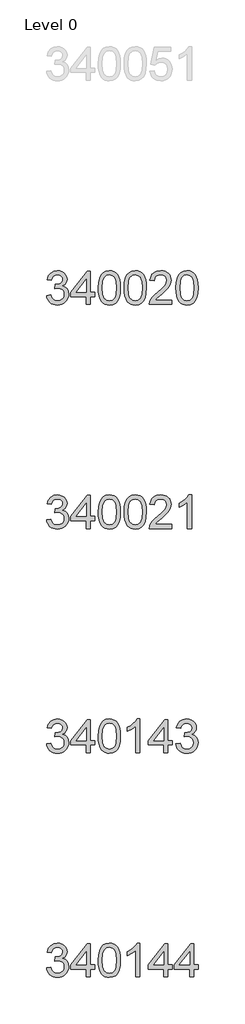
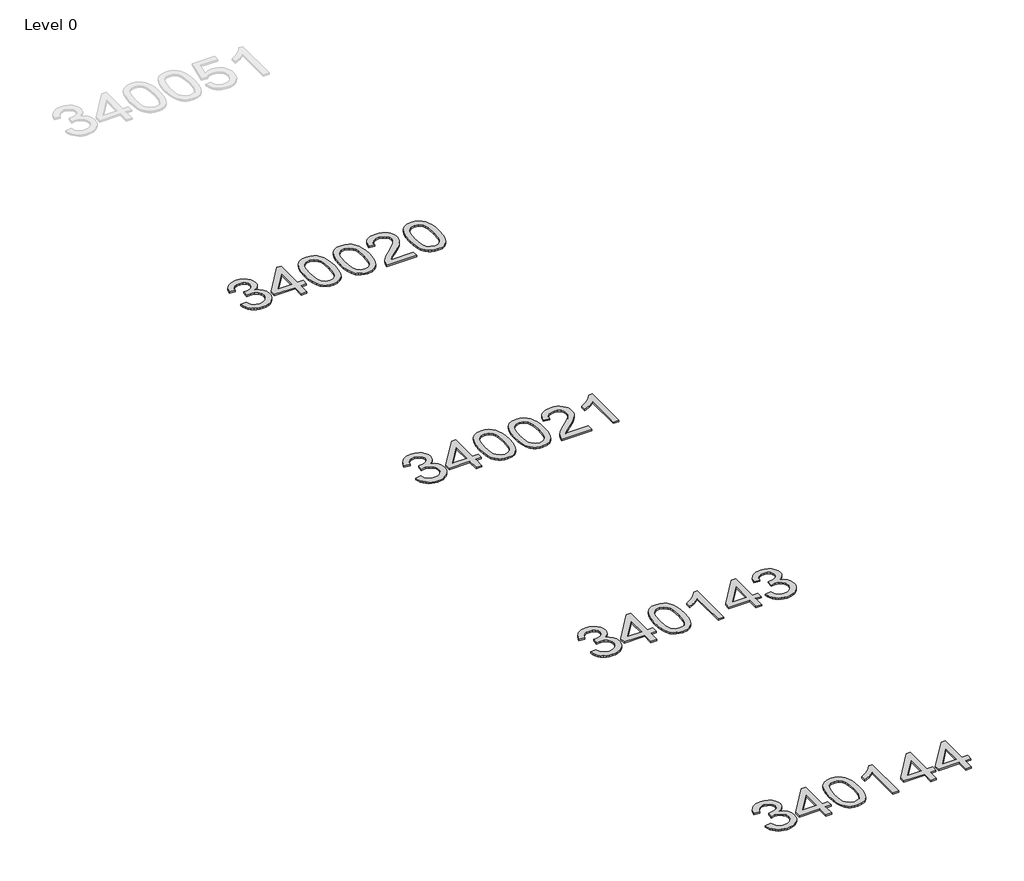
# One storey, part 5 of 10: 4 proxies.
"""IFC4 building model written with IfcOpenShell, lengths in millimetres."""

from ifc_helpers import new_model, si_unit, origin, origin_with_axes, place, context, project, spatial, polyline, outline, extrude, element, save

model = new_model("IFC4")

# Units and contexts
model_context = context("Model", 3, world=origin())
ifc_project = project(units=[si_unit("LENGTHUNIT", "METRE", prefix="MILLI")], contexts=[model_context])

# Site, building, storey
site = spatial("IfcSite", under=ifc_project)
building = spatial("IfcBuilding", under=site)
storey = spatial("IfcBuildingStorey", under=building, Name="Level 0", Elevation=0.0)

# Proxies
placement = place(None, origin())
element("IfcBuildingElementProxy", 1, Name="300mm Arial", ObjectType="300mm Arial", at=placement, inside=storey, context=model_context, shape_type="SweptSolid", body=[
    extrude(outline(polyline([(-6261.3392155, 6357.1231623), (-6223.6680991, 6361.8320519), (-6215.2344044, 6338.1588455), (-6202.8827664, 6322.1743728), (-6186.0061799, 6313.0692934), (-6163.9976395, 6310.034267), (-6138.1723235, 6314.2097276), (-6118.2331193, 6326.7361095), (-6105.4860082, 6345.4245149), (-6101.2369711, 6368.0860458), (-6105.44922, 6389.5979455), (-6118.0859665, 6407.0447491), (-6137.2158303, 6418.6054408), (-6160.9074308, 6422.4590047), (-6187.321358, 6418.3387263), (-6183.1275033, 6456.0098427), (-6177.0942386, 6455.5683843), (-6154.5246782, 6458.2723169), (-6134.3463507, 6466.3841149), (-6120.1093175, 6480.1061133), (-6115.3636398, 6499.6406473), (-6118.8033364, 6515.9102285), (-6129.1224264, 6529.1079951), (-6144.8677758, 6537.8543895), (-6164.5862507, 6540.7698543), (-6184.3415139, 6537.8267984), (-6200.4915334, 6528.9976305), (-6212.2821514, 6514.2823507), (-6218.9592096, 6493.680959), (-6256.6303259, 6498.3898485), (-6245.5386838, 6532.216598), (-6225.8018147, 6557.4716969), (-6198.7992763, 6573.1986522), (-6165.9106259, 6578.4409706), (-6142.2282225, 6575.8565996), (-6120.4771995, 6568.1034866), (-6102.138282, 6555.8714102), (-6088.6921951, 6539.8501494), (-6080.4424414, 6521.3916702), (-6077.6925235, 6501.8479393), (-6080.3044856, 6483.6377805), (-6088.1403721, 6467.1198789), (-6101.0898184, 6453.0483926), (-6119.0424597, 6442.1774796), (-6095.4612238, 6432.649336), (-6077.9868291, 6416.42574), (-6067.1710984, 6394.3896085), (-6063.5658548, 6367.4238582), (-6065.3684766, 6348.3123886), (-6070.7763419, 6330.7092351), (-6079.7894508, 6314.6143978), (-6092.4078033, 6300.0278767), (-6107.7806721, 6287.9245591), (-6125.0573303, 6279.2793322), (-6144.2377779, 6274.092196), (-6165.3220147, 6272.3631507), (-6184.3783021, 6273.8392772), (-6201.7423322, 6278.2676567), (-6217.4141052, 6285.6482892), (-6231.393621, 6295.9811747), (-6243.1152611, 6308.659308), (-6252.0134069, 6323.0756837), (-6258.0880583, 6339.2303018), (-6261.3392155, 6357.1231623)])), origin_with_axes(), (0.0, 0.0, 1.0), 10.0),
    extrude(outline(polyline([(-5908.1725001, 6277.0720402), (-5908.1725001, 6347.7053833), (-6044.7302967, 6347.7053833), (-6044.7302967, 6385.3764996), (-5898.754721, 6573.7320811), (-5870.5013838, 6573.7320811), (-5870.5013838, 6385.3764996), (-5832.8302675, 6385.3764996), (-5832.8302675, 6347.7053833), (-5870.5013838, 6347.7053833), (-5870.5013838, 6277.0720402), (-5908.1725001, 6277.0720402)]), holes=[polyline([(-5908.1725001, 6385.3764996), (-5908.1725001, 6501.7743629), (-5998.3771653, 6385.3764996), (-5908.1725001, 6385.3764996)])]), origin_with_axes(), (0.0, 0.0, 1.0), 10.0),
    extrude(outline(polyline([(-5799.8680407, 6425.3284843), (-5797.0997287, 6473.5670109), (-5788.7947926, 6512.0382705), (-5775.036006, 6541.3308744), (-5755.9061423, 6562.0334337), (-5731.2672456, 6574.3390864), (-5700.9813604, 6578.4409706), (-5677.7680065, 6576.0129495), (-5656.9826738, 6568.728886), (-5639.6002495, 6556.8738887), (-5626.595621, 6540.7330661), (-5616.7731717, 6520.4443741), (-5608.9372852, 6496.1457683), (-5603.8053314, 6465.289666), (-5602.0946801, 6425.3284843), (-5604.835401, 6377.3658691), (-5613.0575635, 6338.98658), (-5626.7335767, 6309.666385), (-5645.8358493, 6288.8810522), (-5670.5299282, 6276.4926261), (-5700.9813604, 6272.3631507), (-5721.7299049, 6274.1565754), (-5740.1240047, 6279.5368496), (-5756.1636597, 6288.5039732), (-5769.8488699, 6301.0579463), (-5782.9822571, 6323.7516669), (-5792.363248, 6352.0279967), (-5797.9918425, 6385.8869358), (-5799.8680407, 6425.3284843)]), holes=[polyline([(-5762.1969244, 6425.4020607), (-5757.7823405, 6366.1454683), (-5752.2641105, 6345.8774696), (-5744.5385886, 6331.8496693), (-5724.8201137, 6315.4881175), (-5700.9813604, 6310.034267), (-5677.1426071, 6315.5065116), (-5657.4241322, 6331.9232457), (-5649.6986103, 6345.9740386), (-5644.1803803, 6366.2374388), (-5639.7657964, 6425.4020607), (-5644.0332275, 6483.3250808), (-5649.3675165, 6503.5264009), (-5656.835521, 6517.8875942), (-5676.5172077, 6535.0492893), (-5701.4228188, 6540.7698543), (-5725.0040547, 6535.729871), (-5743.9499774, 6520.609921), (-5751.9330167, 6504.9749362), (-5757.6351877, 6483.8952979), (-5762.1969244, 6425.4020607)])]), origin_with_axes(), (0.0, 0.0, 1.0), 10.0),
    extrude(outline(polyline([(-5569.1324533, 6425.3284843), (-5566.3641413, 6473.5670109), (-5558.0592053, 6512.0382705), (-5544.3004187, 6541.3308744), (-5525.1705549, 6562.0334337), (-5500.5316583, 6574.3390864), (-5470.245773, 6578.4409706), (-5447.0324191, 6576.0129495), (-5426.2470864, 6568.728886), (-5408.8646621, 6556.8738887), (-5395.8600336, 6540.7330661), (-5386.0375843, 6520.4443741), (-5378.2016978, 6496.1457683), (-5373.069744, 6465.289666), (-5371.3590927, 6425.3284843), (-5374.0998136, 6377.3658691), (-5382.3219762, 6338.98658), (-5395.9979893, 6309.666385), (-5415.1002619, 6288.8810522), (-5439.7943409, 6276.4926261), (-5470.245773, 6272.3631507), (-5490.9943175, 6274.1565754), (-5509.3884173, 6279.5368496), (-5525.4280723, 6288.5039732), (-5539.1132825, 6301.0579463), (-5552.2466697, 6323.7516669), (-5561.6276606, 6352.0279967), (-5567.2562552, 6385.8869358), (-5569.1324533, 6425.3284843)]), holes=[polyline([(-5531.461337, 6425.4020607), (-5527.0467531, 6366.1454683), (-5521.5285231, 6345.8774696), (-5513.8030013, 6331.8496693), (-5494.0845263, 6315.4881175), (-5470.245773, 6310.034267), (-5446.4070197, 6315.5065116), (-5426.6885448, 6331.9232457), (-5418.9630229, 6345.9740386), (-5413.444793, 6366.2374388), (-5409.030209, 6425.4020607), (-5413.2976402, 6483.3250808), (-5418.6319291, 6503.5264009), (-5426.0999336, 6517.8875942), (-5445.7816203, 6535.0492893), (-5470.6872314, 6540.7698543), (-5494.2684673, 6535.729871), (-5513.2143901, 6520.609921), (-5521.1974294, 6504.9749362), (-5526.8996003, 6483.8952979), (-5531.461337, 6425.4020607)])]), origin_with_axes(), (0.0, 0.0, 1.0), 10.0),
    extrude(outline(polyline([(-5145.3323949, 6314.7431565), (-5145.3323949, 6277.0720402), (-5343.1057555, 6277.0720402), (-5339.0590535, 6303.0445091), (-5329.7700332, 6323.3423981), (-5316.1767934, 6343.0332819), (-5296.5135008, 6363.6438707), (-5269.0143217, 6386.7008748), (-5228.3633612, 6422.8084926), (-5203.9727849, 6449.4615431), (-5191.7774968, 6471.0930045), (-5187.7124007, 6492.1358546), (-5191.5475705, 6510.9990039), (-5203.0530799, 6526.6799739), (-5220.7390068, 6537.2473842), (-5243.1154292, 6540.7698543), (-5266.6138916, 6537.3301577), (-5284.8700357, 6527.0110677), (-5296.6514565, 6510.6219248), (-5300.7257496, 6488.9720694), (-5338.396866, 6493.680959), (-5329.2641954, 6530.1196706), (-5320.7178368, 6544.6556079), (-5309.5181293, 6556.7359329), (-5295.9225903, 6566.2318869), (-5280.1887373, 6573.0147112), (-5242.3060888, 6578.4409706), (-5222.1162651, 6576.9326545), (-5204.1475289, 6572.4077059), (-5188.3998802, 6564.866125), (-5174.8733191, 6554.3079118), (-5164.0093039, 6541.5148154), (-5156.2492931, 6527.2685851), (-5151.5932866, 6511.569221), (-5150.0412844, 6494.4167229), (-5151.7151475, 6476.3997022), (-5156.7367367, 6458.6953812), (-5165.6486781, 6440.6875576), (-5178.9935974, 6421.7600289), (-5200.2663738, 6399.1628773), (-5232.9618861, 6370.146185), (-5276.2983852, 6333.9098085), (-5293.2945333, 6314.7431565), (-5145.3323949, 6314.7431565)])), origin_with_axes(), (0.0, 0.0, 1.0), 10.0),
    extrude(outline(polyline([(-5107.6612786, 6425.3284843), (-5104.8929666, 6473.5670109), (-5096.5880305, 6512.0382705), (-5082.8292439, 6541.3308744), (-5063.6993802, 6562.0334337), (-5039.0604835, 6574.3390864), (-5008.7745983, 6578.4409706), (-4985.5612444, 6576.0129495), (-4964.7759116, 6568.728886), (-4947.3934874, 6556.8738887), (-4934.3888588, 6540.7330661), (-4924.5664096, 6520.4443741), (-4916.7305231, 6496.1457683), (-4911.5985692, 6465.289666), (-4909.887918, 6425.3284843), (-4912.6286388, 6377.3658691), (-4920.8508014, 6338.98658), (-4934.5268146, 6309.666385), (-4953.6290872, 6288.8810522), (-4978.3231661, 6276.4926261), (-5008.7745983, 6272.3631507), (-5029.5231428, 6274.1565754), (-5047.9172426, 6279.5368496), (-5063.9568975, 6288.5039732), (-5077.6421078, 6301.0579463), (-5090.775495, 6323.7516669), (-5100.1564859, 6352.0279967), (-5105.7850804, 6385.8869358), (-5107.6612786, 6425.3284843)]), holes=[polyline([(-5069.9901623, 6425.4020607), (-5065.5755783, 6366.1454683), (-5060.0573484, 6345.8774696), (-5052.3318265, 6331.8496693), (-5032.6133516, 6315.4881175), (-5008.7745983, 6310.034267), (-4984.935845, 6315.5065116), (-4965.21737, 6331.9232457), (-4957.4918481, 6345.9740386), (-4951.9736182, 6366.2374388), (-4947.5590343, 6425.4020607), (-4951.8264654, 6483.3250808), (-4957.1607543, 6503.5264009), (-4964.6287589, 6517.8875942), (-4984.3104456, 6535.0492893), (-5009.2160567, 6540.7698543), (-5032.7972926, 6535.729871), (-5051.7432153, 6520.609921), (-5059.7262546, 6504.9749362), (-5065.4284255, 6483.8952979), (-5069.9901623, 6425.4020607)])]), origin_with_axes(), (0.0, 0.0, 1.0), 10.0),
])
element("IfcBuildingElementProxy", 2, Name="300mm Arial", ObjectType="300mm Arial", at=placement, inside=storey, context=model_context, shape_type="SweptSolid", body=[
    extrude(outline(polyline([(-6261.3392155, 2357.1231623), (-6223.6680991, 2361.8320519), (-6215.2344044, 2338.1588455), (-6202.8827664, 2322.1743728), (-6186.0061799, 2313.0692934), (-6163.9976395, 2310.034267), (-6138.1723235, 2314.2097276), (-6118.2331193, 2326.7361095), (-6105.4860082, 2345.4245149), (-6101.2369711, 2368.0860458), (-6105.44922, 2389.5979455), (-6118.0859665, 2407.0447491), (-6137.2158303, 2418.6054408), (-6160.9074308, 2422.4590047), (-6187.321358, 2418.3387263), (-6183.1275033, 2456.0098427), (-6177.0942386, 2455.5683843), (-6154.5246782, 2458.2723169), (-6134.3463507, 2466.3841149), (-6120.1093175, 2480.1061133), (-6115.3636398, 2499.6406473), (-6118.8033364, 2515.9102285), (-6129.1224264, 2529.1079951), (-6144.8677758, 2537.8543895), (-6164.5862507, 2540.7698543), (-6184.3415139, 2537.8267984), (-6200.4915334, 2528.9976305), (-6212.2821514, 2514.2823507), (-6218.9592096, 2493.680959), (-6256.6303259, 2498.3898485), (-6245.5386838, 2532.216598), (-6225.8018147, 2557.4716969), (-6198.7992763, 2573.1986522), (-6165.9106259, 2578.4409706), (-6142.2282225, 2575.8565996), (-6120.4771995, 2568.1034866), (-6102.138282, 2555.8714102), (-6088.6921951, 2539.8501494), (-6080.4424414, 2521.3916702), (-6077.6925235, 2501.8479393), (-6080.3044856, 2483.6377805), (-6088.1403721, 2467.1198789), (-6101.0898184, 2453.0483926), (-6119.0424597, 2442.1774796), (-6095.4612238, 2432.649336), (-6077.9868291, 2416.42574), (-6067.1710984, 2394.3896085), (-6063.5658548, 2367.4238582), (-6065.3684766, 2348.3123886), (-6070.7763419, 2330.7092351), (-6079.7894508, 2314.6143978), (-6092.4078033, 2300.0278767), (-6107.7806721, 2287.9245591), (-6125.0573303, 2279.2793322), (-6144.2377779, 2274.092196), (-6165.3220147, 2272.3631507), (-6184.3783021, 2273.8392772), (-6201.7423322, 2278.2676567), (-6217.4141052, 2285.6482892), (-6231.393621, 2295.9811747), (-6243.1152611, 2308.659308), (-6252.0134069, 2323.0756837), (-6258.0880583, 2339.2303018), (-6261.3392155, 2357.1231623)])), origin_with_axes(), (0.0, 0.0, 1.0), 10.0),
    extrude(outline(polyline([(-5908.1725001, 2277.0720402), (-5908.1725001, 2347.7053833), (-6044.7302967, 2347.7053833), (-6044.7302967, 2385.3764996), (-5898.754721, 2573.7320811), (-5870.5013838, 2573.7320811), (-5870.5013838, 2385.3764996), (-5832.8302675, 2385.3764996), (-5832.8302675, 2347.7053833), (-5870.5013838, 2347.7053833), (-5870.5013838, 2277.0720402), (-5908.1725001, 2277.0720402)]), holes=[polyline([(-5908.1725001, 2385.3764996), (-5908.1725001, 2501.7743629), (-5998.3771653, 2385.3764996), (-5908.1725001, 2385.3764996)])]), origin_with_axes(), (0.0, 0.0, 1.0), 10.0),
    extrude(outline(polyline([(-5799.8680407, 2425.3284843), (-5797.0997287, 2473.5670109), (-5788.7947926, 2512.0382705), (-5775.036006, 2541.3308744), (-5755.9061423, 2562.0334337), (-5731.2672456, 2574.3390864), (-5700.9813604, 2578.4409706), (-5677.7680065, 2576.0129495), (-5656.9826738, 2568.728886), (-5639.6002495, 2556.8738887), (-5626.595621, 2540.7330661), (-5616.7731717, 2520.4443741), (-5608.9372852, 2496.1457683), (-5603.8053314, 2465.289666), (-5602.0946801, 2425.3284843), (-5604.835401, 2377.3658691), (-5613.0575635, 2338.98658), (-5626.7335767, 2309.666385), (-5645.8358493, 2288.8810522), (-5670.5299282, 2276.4926261), (-5700.9813604, 2272.3631507), (-5721.7299049, 2274.1565754), (-5740.1240047, 2279.5368496), (-5756.1636597, 2288.5039732), (-5769.8488699, 2301.0579463), (-5782.9822571, 2323.7516669), (-5792.363248, 2352.0279967), (-5797.9918425, 2385.8869358), (-5799.8680407, 2425.3284843)]), holes=[polyline([(-5762.1969244, 2425.4020607), (-5757.7823405, 2366.1454683), (-5752.2641105, 2345.8774696), (-5744.5385886, 2331.8496693), (-5724.8201137, 2315.4881175), (-5700.9813604, 2310.034267), (-5677.1426071, 2315.5065116), (-5657.4241322, 2331.9232457), (-5649.6986103, 2345.9740386), (-5644.1803803, 2366.2374388), (-5639.7657964, 2425.4020607), (-5644.0332275, 2483.3250808), (-5649.3675165, 2503.5264009), (-5656.835521, 2517.8875942), (-5676.5172077, 2535.0492893), (-5701.4228188, 2540.7698543), (-5725.0040547, 2535.729871), (-5743.9499774, 2520.609921), (-5751.9330167, 2504.9749362), (-5757.6351877, 2483.8952979), (-5762.1969244, 2425.4020607)])]), origin_with_axes(), (0.0, 0.0, 1.0), 10.0),
    extrude(outline(polyline([(-5427.8657672, 2277.0720402), (-5465.5368835, 2277.0720402), (-5465.5368835, 2511.9279059), (-5501.221437, 2486.5072601), (-5540.8791161, 2467.4877609), (-5540.8791161, 2503.098738), (-5511.2922066, 2519.1935753), (-5485.6600286, 2538.3418332), (-5465.45411, 2558.7041016), (-5452.1459789, 2578.4409706), (-5427.8657672, 2578.4409706), (-5427.8657672, 2277.0720402)])), origin_with_axes(), (0.0, 0.0, 1.0), 10.0),
    extrude(outline(polyline([(-5215.965738, 2277.0720402), (-5215.965738, 2347.7053833), (-5352.5235346, 2347.7053833), (-5352.5235346, 2385.3764996), (-5206.5479589, 2573.7320811), (-5178.2946216, 2573.7320811), (-5178.2946216, 2385.3764996), (-5140.6235053, 2385.3764996), (-5140.6235053, 2347.7053833), (-5178.2946216, 2347.7053833), (-5178.2946216, 2277.0720402), (-5215.965738, 2277.0720402)]), holes=[polyline([(-5215.965738, 2385.3764996), (-5215.965738, 2501.7743629), (-5306.1704032, 2385.3764996), (-5215.965738, 2385.3764996)])]), origin_with_axes(), (0.0, 0.0, 1.0), 10.0),
    extrude(outline(polyline([(-5107.6612786, 2357.1231623), (-5069.9901623, 2361.8320519), (-5061.5564675, 2338.1588455), (-5049.2048295, 2322.1743728), (-5032.328243, 2313.0692934), (-5010.3197027, 2310.034267), (-4984.4943866, 2314.2097276), (-4964.5551825, 2326.7361095), (-4951.8080713, 2345.4245149), (-4947.5590343, 2368.0860458), (-4951.7712831, 2389.5979455), (-4964.4080297, 2407.0447491), (-4983.5378934, 2418.6054408), (-5007.2294939, 2422.4590047), (-5033.6434211, 2418.3387263), (-5029.4495664, 2456.0098427), (-5023.4163017, 2455.5683843), (-5000.8467413, 2458.2723169), (-4980.6684138, 2466.3841149), (-4966.4313806, 2480.1061133), (-4961.6857029, 2499.6406473), (-4965.1253995, 2515.9102285), (-4975.4444895, 2529.1079951), (-4991.1898389, 2537.8543895), (-5010.9083138, 2540.7698543), (-5030.663577, 2537.8267984), (-5046.8135966, 2528.9976305), (-5058.6042145, 2514.2823507), (-5065.2812727, 2493.680959), (-5102.952389, 2498.3898485), (-5091.8607469, 2532.216598), (-5072.1238778, 2557.4716969), (-5045.1213394, 2573.1986522), (-5012.232689, 2578.4409706), (-4988.5502856, 2575.8565996), (-4966.7992626, 2568.1034866), (-4948.4603452, 2555.8714102), (-4935.0142582, 2539.8501494), (-4926.7645045, 2521.3916702), (-4924.0145866, 2501.8479393), (-4926.6265487, 2483.6377805), (-4934.4624352, 2467.1198789), (-4947.4118815, 2453.0483926), (-4965.3645228, 2442.1774796), (-4941.783287, 2432.649336), (-4924.3088922, 2416.42574), (-4913.4931615, 2394.3896085), (-4909.887918, 2367.4238582), (-4911.6905397, 2348.3123886), (-4917.0984051, 2330.7092351), (-4926.111514, 2314.6143978), (-4938.7298664, 2300.0278767), (-4954.1027353, 2287.9245591), (-4971.3793935, 2279.2793322), (-4990.559841, 2274.092196), (-5011.6440778, 2272.3631507), (-5030.7003652, 2273.8392772), (-5048.0643954, 2278.2676567), (-5063.7361684, 2285.6482892), (-5077.7156842, 2295.9811747), (-5089.4373242, 2308.659308), (-5098.33547, 2323.0756837), (-5104.4101214, 2339.2303018), (-5107.6612786, 2357.1231623)])), origin_with_axes(), (0.0, 0.0, 1.0), 10.0),
])
element("IfcBuildingElementProxy", 3, Name="300mm Arial", ObjectType="300mm Arial", at=placement, inside=storey, context=model_context, shape_type="SweptSolid", body=[
    extrude(outline(polyline([(-6261.3392155, 4357.1231623), (-6223.6680991, 4361.8320519), (-6215.2344044, 4338.1588455), (-6202.8827664, 4322.1743728), (-6186.0061799, 4313.0692934), (-6163.9976395, 4310.034267), (-6138.1723235, 4314.2097276), (-6118.2331193, 4326.7361095), (-6105.4860082, 4345.4245149), (-6101.2369711, 4368.0860458), (-6105.44922, 4389.5979455), (-6118.0859665, 4407.0447491), (-6137.2158303, 4418.6054408), (-6160.9074308, 4422.4590047), (-6187.321358, 4418.3387263), (-6183.1275033, 4456.0098427), (-6177.0942386, 4455.5683843), (-6154.5246782, 4458.2723169), (-6134.3463507, 4466.3841149), (-6120.1093175, 4480.1061133), (-6115.3636398, 4499.6406473), (-6118.8033364, 4515.9102285), (-6129.1224264, 4529.1079951), (-6144.8677758, 4537.8543895), (-6164.5862507, 4540.7698543), (-6184.3415139, 4537.8267984), (-6200.4915334, 4528.9976305), (-6212.2821514, 4514.2823507), (-6218.9592096, 4493.680959), (-6256.6303259, 4498.3898485), (-6245.5386838, 4532.216598), (-6225.8018147, 4557.4716969), (-6198.7992763, 4573.1986522), (-6165.9106259, 4578.4409706), (-6142.2282225, 4575.8565996), (-6120.4771995, 4568.1034866), (-6102.138282, 4555.8714102), (-6088.6921951, 4539.8501494), (-6080.4424414, 4521.3916702), (-6077.6925235, 4501.8479393), (-6080.3044856, 4483.6377805), (-6088.1403721, 4467.1198789), (-6101.0898184, 4453.0483926), (-6119.0424597, 4442.1774796), (-6095.4612238, 4432.649336), (-6077.9868291, 4416.42574), (-6067.1710984, 4394.3896085), (-6063.5658548, 4367.4238582), (-6065.3684766, 4348.3123886), (-6070.7763419, 4330.7092351), (-6079.7894508, 4314.6143978), (-6092.4078033, 4300.0278767), (-6107.7806721, 4287.9245591), (-6125.0573303, 4279.2793322), (-6144.2377779, 4274.092196), (-6165.3220147, 4272.3631507), (-6184.3783021, 4273.8392772), (-6201.7423322, 4278.2676567), (-6217.4141052, 4285.6482892), (-6231.393621, 4295.9811747), (-6243.1152611, 4308.659308), (-6252.0134069, 4323.0756837), (-6258.0880583, 4339.2303018), (-6261.3392155, 4357.1231623)])), origin_with_axes(), (0.0, 0.0, 1.0), 10.0),
    extrude(outline(polyline([(-5908.1725001, 4277.0720402), (-5908.1725001, 4347.7053833), (-6044.7302967, 4347.7053833), (-6044.7302967, 4385.3764996), (-5898.754721, 4573.7320811), (-5870.5013838, 4573.7320811), (-5870.5013838, 4385.3764996), (-5832.8302675, 4385.3764996), (-5832.8302675, 4347.7053833), (-5870.5013838, 4347.7053833), (-5870.5013838, 4277.0720402), (-5908.1725001, 4277.0720402)]), holes=[polyline([(-5908.1725001, 4385.3764996), (-5908.1725001, 4501.7743629), (-5998.3771653, 4385.3764996), (-5908.1725001, 4385.3764996)])]), origin_with_axes(), (0.0, 0.0, 1.0), 10.0),
    extrude(outline(polyline([(-5799.8680407, 4425.3284843), (-5797.0997287, 4473.5670109), (-5788.7947926, 4512.0382705), (-5775.036006, 4541.3308744), (-5755.9061423, 4562.0334337), (-5731.2672456, 4574.3390864), (-5700.9813604, 4578.4409706), (-5677.7680065, 4576.0129495), (-5656.9826738, 4568.728886), (-5639.6002495, 4556.8738887), (-5626.595621, 4540.7330661), (-5616.7731717, 4520.4443741), (-5608.9372852, 4496.1457683), (-5603.8053314, 4465.289666), (-5602.0946801, 4425.3284843), (-5604.835401, 4377.3658691), (-5613.0575635, 4338.98658), (-5626.7335767, 4309.666385), (-5645.8358493, 4288.8810522), (-5670.5299282, 4276.4926261), (-5700.9813604, 4272.3631507), (-5721.7299049, 4274.1565754), (-5740.1240047, 4279.5368496), (-5756.1636597, 4288.5039732), (-5769.8488699, 4301.0579463), (-5782.9822571, 4323.7516669), (-5792.363248, 4352.0279967), (-5797.9918425, 4385.8869358), (-5799.8680407, 4425.3284843)]), holes=[polyline([(-5762.1969244, 4425.4020607), (-5757.7823405, 4366.1454683), (-5752.2641105, 4345.8774696), (-5744.5385886, 4331.8496693), (-5724.8201137, 4315.4881175), (-5700.9813604, 4310.034267), (-5677.1426071, 4315.5065116), (-5657.4241322, 4331.9232457), (-5649.6986103, 4345.9740386), (-5644.1803803, 4366.2374388), (-5639.7657964, 4425.4020607), (-5644.0332275, 4483.3250808), (-5649.3675165, 4503.5264009), (-5656.835521, 4517.8875942), (-5676.5172077, 4535.0492893), (-5701.4228188, 4540.7698543), (-5725.0040547, 4535.729871), (-5743.9499774, 4520.609921), (-5751.9330167, 4504.9749362), (-5757.6351877, 4483.8952979), (-5762.1969244, 4425.4020607)])]), origin_with_axes(), (0.0, 0.0, 1.0), 10.0),
    extrude(outline(polyline([(-5569.1324533, 4425.3284843), (-5566.3641413, 4473.5670109), (-5558.0592053, 4512.0382705), (-5544.3004187, 4541.3308744), (-5525.1705549, 4562.0334337), (-5500.5316583, 4574.3390864), (-5470.245773, 4578.4409706), (-5447.0324191, 4576.0129495), (-5426.2470864, 4568.728886), (-5408.8646621, 4556.8738887), (-5395.8600336, 4540.7330661), (-5386.0375843, 4520.4443741), (-5378.2016978, 4496.1457683), (-5373.069744, 4465.289666), (-5371.3590927, 4425.3284843), (-5374.0998136, 4377.3658691), (-5382.3219762, 4338.98658), (-5395.9979893, 4309.666385), (-5415.1002619, 4288.8810522), (-5439.7943409, 4276.4926261), (-5470.245773, 4272.3631507), (-5490.9943175, 4274.1565754), (-5509.3884173, 4279.5368496), (-5525.4280723, 4288.5039732), (-5539.1132825, 4301.0579463), (-5552.2466697, 4323.7516669), (-5561.6276606, 4352.0279967), (-5567.2562552, 4385.8869358), (-5569.1324533, 4425.3284843)]), holes=[polyline([(-5531.461337, 4425.4020607), (-5527.0467531, 4366.1454683), (-5521.5285231, 4345.8774696), (-5513.8030013, 4331.8496693), (-5494.0845263, 4315.4881175), (-5470.245773, 4310.034267), (-5446.4070197, 4315.5065116), (-5426.6885448, 4331.9232457), (-5418.9630229, 4345.9740386), (-5413.444793, 4366.2374388), (-5409.030209, 4425.4020607), (-5413.2976402, 4483.3250808), (-5418.6319291, 4503.5264009), (-5426.0999336, 4517.8875942), (-5445.7816203, 4535.0492893), (-5470.6872314, 4540.7698543), (-5494.2684673, 4535.729871), (-5513.2143901, 4520.609921), (-5521.1974294, 4504.9749362), (-5526.8996003, 4483.8952979), (-5531.461337, 4425.4020607)])]), origin_with_axes(), (0.0, 0.0, 1.0), 10.0),
    extrude(outline(polyline([(-5145.3323949, 4314.7431565), (-5145.3323949, 4277.0720402), (-5343.1057555, 4277.0720402), (-5339.0590535, 4303.0445091), (-5329.7700332, 4323.3423981), (-5316.1767934, 4343.0332819), (-5296.5135008, 4363.6438707), (-5269.0143217, 4386.7008748), (-5228.3633612, 4422.8084926), (-5203.9727849, 4449.4615431), (-5191.7774968, 4471.0930045), (-5187.7124007, 4492.1358546), (-5191.5475705, 4510.9990039), (-5203.0530799, 4526.6799739), (-5220.7390068, 4537.2473842), (-5243.1154292, 4540.7698543), (-5266.6138916, 4537.3301577), (-5284.8700357, 4527.0110677), (-5296.6514565, 4510.6219248), (-5300.7257496, 4488.9720694), (-5338.396866, 4493.680959), (-5329.2641954, 4530.1196706), (-5320.7178368, 4544.6556079), (-5309.5181293, 4556.7359329), (-5295.9225903, 4566.2318869), (-5280.1887373, 4573.0147112), (-5242.3060888, 4578.4409706), (-5222.1162651, 4576.9326545), (-5204.1475289, 4572.4077059), (-5188.3998802, 4564.866125), (-5174.8733191, 4554.3079118), (-5164.0093039, 4541.5148154), (-5156.2492931, 4527.2685851), (-5151.5932866, 4511.569221), (-5150.0412844, 4494.4167229), (-5151.7151475, 4476.3997022), (-5156.7367367, 4458.6953812), (-5165.6486781, 4440.6875576), (-5178.9935974, 4421.7600289), (-5200.2663738, 4399.1628773), (-5232.9618861, 4370.146185), (-5276.2983852, 4333.9098085), (-5293.2945333, 4314.7431565), (-5145.3323949, 4314.7431565)])), origin_with_axes(), (0.0, 0.0, 1.0), 10.0),
    extrude(outline(polyline([(-4966.3945924, 4277.0720402), (-5004.0657087, 4277.0720402), (-5004.0657087, 4511.9279059), (-5039.7502623, 4486.5072601), (-5079.4079413, 4467.4877609), (-5079.4079413, 4503.098738), (-5049.8210319, 4519.1935753), (-5024.1888539, 4538.3418332), (-5003.9829353, 4558.7041016), (-4990.6748041, 4578.4409706), (-4966.3945924, 4578.4409706), (-4966.3945924, 4277.0720402)])), origin_with_axes(), (0.0, 0.0, 1.0), 10.0),
])
element("IfcBuildingElementProxy", 4, Name="300mm Arial", ObjectType="300mm Arial", at=placement, inside=storey, context=model_context, shape_type="SweptSolid", body=[
    extrude(outline(polyline([(-6261.3392155, 357.1231623), (-6223.6680991, 361.8320519), (-6215.2344044, 338.1588455), (-6202.8827664, 322.1743728), (-6186.0061799, 313.0692934), (-6163.9976395, 310.034267), (-6138.1723235, 314.2097276), (-6118.2331193, 326.7361095), (-6105.4860082, 345.4245149), (-6101.2369711, 368.0860458), (-6105.44922, 389.5979455), (-6118.0859665, 407.0447491), (-6137.2158303, 418.6054408), (-6160.9074308, 422.4590047), (-6187.321358, 418.3387263), (-6183.1275033, 456.0098427), (-6177.0942386, 455.5683843), (-6154.5246782, 458.2723169), (-6134.3463507, 466.3841149), (-6120.1093175, 480.1061133), (-6115.3636398, 499.6406473), (-6118.8033364, 515.9102285), (-6129.1224264, 529.1079951), (-6144.8677758, 537.8543895), (-6164.5862507, 540.7698543), (-6184.3415139, 537.8267984), (-6200.4915334, 528.9976305), (-6212.2821514, 514.2823507), (-6218.9592096, 493.680959), (-6256.6303259, 498.3898485), (-6245.5386838, 532.216598), (-6225.8018147, 557.4716969), (-6198.7992763, 573.1986522), (-6165.9106259, 578.4409706), (-6142.2282225, 575.8565996), (-6120.4771995, 568.1034866), (-6102.138282, 555.8714102), (-6088.6921951, 539.8501494), (-6080.4424414, 521.3916702), (-6077.6925235, 501.8479393), (-6080.3044856, 483.6377805), (-6088.1403721, 467.1198789), (-6101.0898184, 453.0483926), (-6119.0424597, 442.1774796), (-6095.4612238, 432.649336), (-6077.9868291, 416.42574), (-6067.1710984, 394.3896085), (-6063.5658548, 367.4238582), (-6065.3684766, 348.3123886), (-6070.7763419, 330.7092351), (-6079.7894508, 314.6143978), (-6092.4078033, 300.0278767), (-6107.7806721, 287.9245591), (-6125.0573303, 279.2793322), (-6144.2377779, 274.092196), (-6165.3220147, 272.3631507), (-6184.3783021, 273.8392772), (-6201.7423322, 278.2676567), (-6217.4141052, 285.6482892), (-6231.393621, 295.9811747), (-6243.1152611, 308.659308), (-6252.0134069, 323.0756837), (-6258.0880583, 339.2303018), (-6261.3392155, 357.1231623)])), origin_with_axes(), (0.0, 0.0, 1.0), 10.0),
    extrude(outline(polyline([(-5908.1725001, 277.0720402), (-5908.1725001, 347.7053833), (-6044.7302967, 347.7053833), (-6044.7302967, 385.3764996), (-5898.754721, 573.7320811), (-5870.5013838, 573.7320811), (-5870.5013838, 385.3764996), (-5832.8302675, 385.3764996), (-5832.8302675, 347.7053833), (-5870.5013838, 347.7053833), (-5870.5013838, 277.0720402), (-5908.1725001, 277.0720402)]), holes=[polyline([(-5908.1725001, 385.3764996), (-5908.1725001, 501.7743629), (-5998.3771653, 385.3764996), (-5908.1725001, 385.3764996)])]), origin_with_axes(), (0.0, 0.0, 1.0), 10.0),
    extrude(outline(polyline([(-5799.8680407, 425.3284843), (-5797.0997287, 473.5670109), (-5788.7947926, 512.0382705), (-5775.036006, 541.3308744), (-5755.9061423, 562.0334337), (-5731.2672456, 574.3390864), (-5700.9813604, 578.4409706), (-5677.7680065, 576.0129495), (-5656.9826738, 568.728886), (-5639.6002495, 556.8738887), (-5626.595621, 540.7330661), (-5616.7731717, 520.4443741), (-5608.9372852, 496.1457683), (-5603.8053314, 465.289666), (-5602.0946801, 425.3284843), (-5604.835401, 377.3658691), (-5613.0575635, 338.98658), (-5626.7335767, 309.666385), (-5645.8358493, 288.8810522), (-5670.5299282, 276.4926261), (-5700.9813604, 272.3631507), (-5721.7299049, 274.1565754), (-5740.1240047, 279.5368496), (-5756.1636597, 288.5039732), (-5769.8488699, 301.0579463), (-5782.9822571, 323.7516669), (-5792.363248, 352.0279967), (-5797.9918425, 385.8869358), (-5799.8680407, 425.3284843)]), holes=[polyline([(-5762.1969244, 425.4020607), (-5757.7823405, 366.1454683), (-5752.2641105, 345.8774696), (-5744.5385886, 331.8496693), (-5724.8201137, 315.4881175), (-5700.9813604, 310.034267), (-5677.1426071, 315.5065116), (-5657.4241322, 331.9232457), (-5649.6986103, 345.9740386), (-5644.1803803, 366.2374388), (-5639.7657964, 425.4020607), (-5644.0332275, 483.3250808), (-5649.3675165, 503.5264009), (-5656.835521, 517.8875942), (-5676.5172077, 535.0492893), (-5701.4228188, 540.7698543), (-5725.0040547, 535.729871), (-5743.9499774, 520.609921), (-5751.9330167, 504.9749362), (-5757.6351877, 483.8952979), (-5762.1969244, 425.4020607)])]), origin_with_axes(), (0.0, 0.0, 1.0), 10.0),
    extrude(outline(polyline([(-5427.8657672, 277.0720402), (-5465.5368835, 277.0720402), (-5465.5368835, 511.9279059), (-5501.221437, 486.5072601), (-5540.8791161, 467.4877609), (-5540.8791161, 503.098738), (-5511.2922066, 519.1935753), (-5485.6600286, 538.3418332), (-5465.45411, 558.7041016), (-5452.1459789, 578.4409706), (-5427.8657672, 578.4409706), (-5427.8657672, 277.0720402)])), origin_with_axes(), (0.0, 0.0, 1.0), 10.0),
    extrude(outline(polyline([(-5215.965738, 277.0720402), (-5215.965738, 347.7053833), (-5352.5235346, 347.7053833), (-5352.5235346, 385.3764996), (-5206.5479589, 573.7320811), (-5178.2946216, 573.7320811), (-5178.2946216, 385.3764996), (-5140.6235053, 385.3764996), (-5140.6235053, 347.7053833), (-5178.2946216, 347.7053833), (-5178.2946216, 277.0720402), (-5215.965738, 277.0720402)]), holes=[polyline([(-5215.965738, 385.3764996), (-5215.965738, 501.7743629), (-5306.1704032, 385.3764996), (-5215.965738, 385.3764996)])]), origin_with_axes(), (0.0, 0.0, 1.0), 10.0),
    extrude(outline(polyline([(-4985.2301506, 277.0720402), (-4985.2301506, 347.7053833), (-5121.7879472, 347.7053833), (-5121.7879472, 385.3764996), (-4975.8123715, 573.7320811), (-4947.5590343, 573.7320811), (-4947.5590343, 385.3764996), (-4909.887918, 385.3764996), (-4909.887918, 347.7053833), (-4947.5590343, 347.7053833), (-4947.5590343, 277.0720402), (-4985.2301506, 277.0720402)]), holes=[polyline([(-4985.2301506, 385.3764996), (-4985.2301506, 501.7743629), (-5075.4348158, 385.3764996), (-4985.2301506, 385.3764996)])]), origin_with_axes(), (0.0, 0.0, 1.0), 10.0),
])

save(model, "model.ifc")
